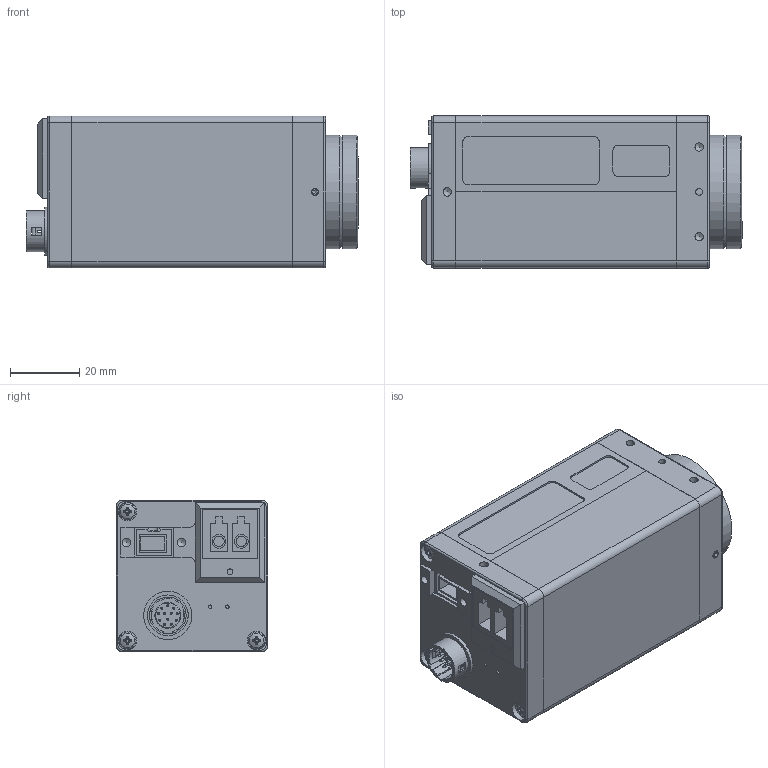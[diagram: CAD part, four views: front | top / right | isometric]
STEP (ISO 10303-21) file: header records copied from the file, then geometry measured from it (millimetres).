
FILE_DESCRIPTION((''),'2;1');
FILE_NAME('\\Avtnet.local\dfs-mechanics\Inventor\Kamerafamilien\Pike\STEP-Dateien_Pike\Pike_GOF.stp','2010-03-10T12:28:51',('mressin'),(''),'Autodesk Inventor 11','Autodesk Inventor 11','');
FILE_SCHEMA(('AUTOMOTIVE_DESIGN { 1 0 10303 214 1 1 1 1 }'));
Length unit declared in the file: millimetre
Products named in the file (36): Pike_GOF; Pike Frontflansch; K5000741_Pike_Frontplatte; Pike_Klemmteil+Filter; K5000742_Pike_C-Mountflansch-Klemmteil_großerSensor; K5100167_Filter_B270(ASG)-24mm; Pike_Sensor_KAI2093_1v10; K5000765_Pike_Sensorauflage_KAI20XX; K8150076_Sensor_KAI2093-ABA-CB-B2_2MP_mono; K5540017_Gewindestift ISO4026-M2,5x6-A2; K5510128_Zylinderschr. mit ISK ISO4762-M2x8-A4; K4000270_Pike Rückwand-GOF; K5000918_Pike_Rückwand_GOF-PUH; K5100175_OT-Lichtleiter Optical Light Pipe 1,63mm; Pike_Backplane-EMV_2v00_FF; Pike_Backplane-EMV_2v00; Marlin-IO-Board; STECKER-KPL-K7600043; Pinträger-10J43_2; PinB-lang-10J43; PinB-kurz-10J43; Trägerfassung-10J43; HIROSE-12pol-klemmring; HIROSE-12pol-6kt-ring; K5510139_Zylinderschr. mit ISK ISO4762-M2x3-A2; Pike_FPGA_2v00; Pike_uC-GOF-EMV_2v40; Pike_uC_GOF_2v00; GOF-Stecker; FW-1fach; Pike_Power_EMV_2v00; Pike_Kodak_AFE_2v20; K5000968_Pike_Seite-links_GOF_MSZ; K5000967_Pike-Seite rechts_MSZ; K5510003_Linsenschraube mit KS ISO7045-M2,5x8-A2-sw
Assembly tree (56 placements, depth 7):
  Pike_GOF
    Pike Frontflansch
      K5000741_Pike_Frontplatte
      Pike_Klemmteil+Filter
        K5000742_Pike_C-Mountflansch-Klemmteil_großerSensor
        K5100167_Filter_B270(ASG)-24mm
      Pike_Sensor_KAI2093_1v10
      K5000765_Pike_Sensorauflage_KAI20XX
      K8150076_Sensor_KAI2093-ABA-CB-B2_2MP_mono
      K5540017_Gewindestift ISO4026-M2,5x6-A2  x2
      K5510128_Zylinderschr. mit ISK ISO4762-M2x8-A4  x4
    K4000270_Pike Rückwand-GOF
      K5000918_Pike_Rückwand_GOF-PUH
      K5100175_OT-Lichtleiter Optical Light Pipe 1,63mm
      Pike_Backplane-EMV_2v00_FF
        Pike_Backplane-EMV_2v00
        Marlin-IO-Board
          STECKER-KPL-K7600043
            Pinträger-10J43_2
              Pinträger-10J43_2
              PinB-lang-10J43  x3
              PinB-kurz-10J43  x9
            Trägerfassung-10J43
          HIROSE-12pol-klemmring
          HIROSE-12pol-6kt-ring
      K5510139_Zylinderschr. mit ISK ISO4762-M2x3-A2  x2
    Pike_FPGA_2v00
    Pike_uC-GOF-EMV_2v40
      Pike_uC_GOF_2v00
      GOF-Stecker
      FW-1fach
    Pike_Power_EMV_2v00
    Pike_Kodak_AFE_2v20
    K5000968_Pike_Seite-links_GOF_MSZ
    K5000967_Pike-Seite rechts_MSZ
    K5510003_Linsenschraube mit KS ISO7045-M2,5x8-A2-sw  x7
Bounding box: 96.2 x 44 x 44 mm (x, y, z)
Volume: 71475.8 mm3; surface area: 80558 mm2
Topology: 48 solids, 48 shells, 1916 faces, 4898 edges, 3204 vertices
Faces by surface type: plane 1177, bspline 315, cylinder 218, cone 150, torus 49, sphere 7
Full cylindrical faces by diameter (mm): 0.3 x1, 0.5 x13, 0.6 x12, 0.8 x1, 1 x1, 1.1 x12, 1.63 x1, 1.8 x2, 2 x6, 2.256 x7, 2.5 x9, 2.54 x2, 3 x4, 3.8 x6, 4 x2, 6.3 x2, 6.5 x1, 7.5 x1, 8.3 x3, 8.5 x1, 10.2 x1, 10.6 x1, 10.8 x2, 11.8 x1, 14 x2, 16 x1, 22 x1, 24 x1, 24.3 x1, 28.5 x1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
Entity records: 49055 total; most frequent: CARTESIAN_POINT 12675, ORIENTED_EDGE 7548, DIRECTION 6478, EDGE_CURVE 3774, VECTOR 2758, LINE 2758, VERTEX_POINT 2574, EDGE_LOOP 1886
